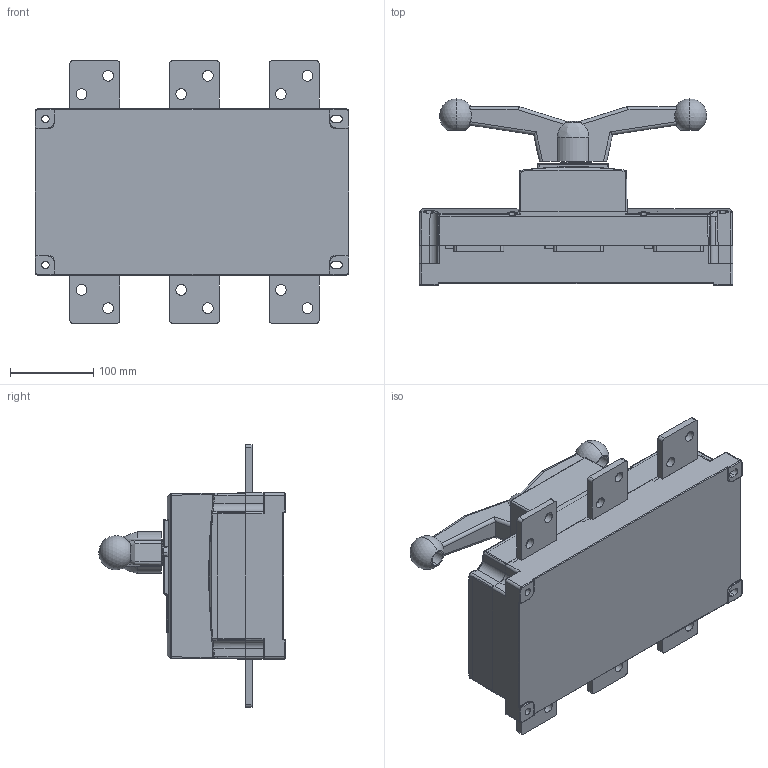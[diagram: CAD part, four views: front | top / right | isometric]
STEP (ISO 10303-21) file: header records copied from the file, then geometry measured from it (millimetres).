
FILE_DESCRIPTION((''),'2;1');
FILE_NAME('NH40-1000-3_3P_202010_ASM','2024-03-18T',('zhuanghy'),(''),'CREO PARAMETRIC BY PTC INC, 2018070','CREO PARAMETRIC BY PTC INC, 2018070','');
FILE_SCHEMA(('AUTOMOTIVE_DESIGN { 1 0 10303 214 1 1 1 1 }'));
Products named in the file (14): PRT0037; PRT0038; PRT0041_1_2; PRT0042_1_2; ASM0020_ASM_ASM; PRT0043_1_2; ASM0019_ASM_ASM; ASM0018_ASM_ASM; ASM0017_ASM_ASM; ASM0016_ASM_ASM; ASM0015_ASM_ASM; NH40-1000_ASM_ASM; NH40-1000_1600_202107; NH40-1000-3_3P_202010_ASM
Assembly tree (18 placements, depth 9):
  NH40-1000-3_3P_202010_ASM
    NH40-1000_ASM_ASM
      ASM0015_ASM_ASM
        ASM0016_ASM_ASM
          ASM0017_ASM_ASM
            ASM0018_ASM_ASM
              ASM0019_ASM_ASM
                ASM0020_ASM_ASM
                  PRT0037
                  PRT0038
                  PRT0041_1_2
                  PRT0042_1_2
                PRT0043_1_2  x6
    NH40-1000_1600_202107
Bounding box: 378 x 224.5 x 316 mm (x, y, z)
Volume: 9975267.7 mm3; surface area: 1149944 mm2
Topology: 11 solids, 15 shells, 2451 faces, 6600 edges, 4010 vertices
Faces by surface type: cylinder 1023, plane 979, sphere 197, torus 136, bspline 96, cone 20
Entity records: 83087 total; most frequent: CARTESIAN_POINT 25546, ORIENTED_EDGE 12246, DIRECTION 11546, EDGE_CURVE 6130, AXIS2_PLACEMENT_3D 4055, VERTEX_POINT 3820, VECTOR 3436, LINE 3436
